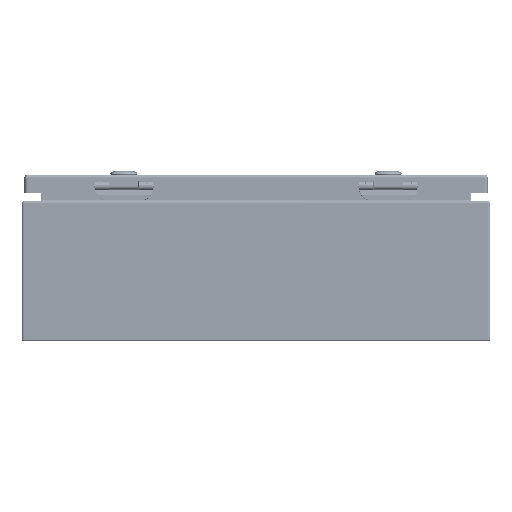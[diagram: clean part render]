
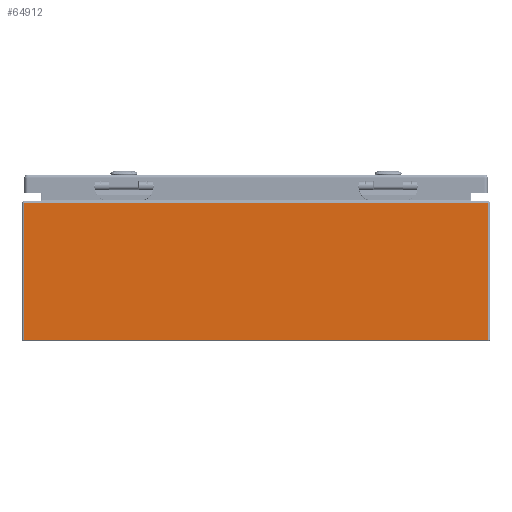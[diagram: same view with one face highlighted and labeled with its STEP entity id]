
A CAD part, left-side view. The second image highlights one B-rep face of the part: STEP entity #64912.
In plain terms, the highlighted planar face has unit normal (-1, 0, 0).
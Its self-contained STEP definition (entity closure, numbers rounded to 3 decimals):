
#6319=LINE('',#90825,#10344);
#6330=LINE('',#90866,#10355);
#6334=LINE('',#90881,#10359);
#6335=LINE('',#90882,#10360);
#10344=VECTOR('',#75524,0.394);
#10355=VECTOR('',#75573,0.394);
#10359=VECTOR('',#75591,0.394);
#10360=VECTOR('',#75592,0.394);
#15400=FACE_OUTER_BOUND('',#19386,.T.);
#19386=EDGE_LOOP('',(#43175,#43176,#43177,#43178));
#26011=VERTEX_POINT('',#90818);
#26012=VERTEX_POINT('',#90823);
#26023=VERTEX_POINT('',#90865);
#26027=VERTEX_POINT('',#90880);
#32644=EDGE_CURVE('',#26012,#26011,#6319,.T.);
#32664=EDGE_CURVE('',#26011,#26023,#6330,.T.);
#32672=EDGE_CURVE('',#26027,#26012,#6334,.T.);
#32673=EDGE_CURVE('',#26027,#26023,#6335,.T.);
#43175=ORIENTED_EDGE('',*,*,#32644,.F.);
#43176=ORIENTED_EDGE('',*,*,#32672,.F.);
#43177=ORIENTED_EDGE('',*,*,#32673,.T.);
#43178=ORIENTED_EDGE('',*,*,#32664,.F.);
#63520=PLANE('',#69793);
#64912=ADVANCED_FACE('',(#15400),#63520,.F.);
#69793=AXIS2_PLACEMENT_3D('',#90879,#75589,#75590);
#75524=DIRECTION('',(0.,-1.,0.));
#75573=DIRECTION('',(0.,0.,-1.));
#75589=DIRECTION('center_axis',(1.,0.,0.));
#75590=DIRECTION('ref_axis',(0.,0.,-1.));
#75591=DIRECTION('',(0.,0.,1.));
#75592=DIRECTION('',(0.,-1.,0.));
#90818=CARTESIAN_POINT('',(-12.,-9.916,5.916));
#90823=CARTESIAN_POINT('',(-12.,9.916,5.916));
#90825=CARTESIAN_POINT('',(-12.,-4.979,5.916));
#90865=CARTESIAN_POINT('',(-12.,-9.916,0.084));
#90866=CARTESIAN_POINT('',(-12.,-9.916,3.));
#90879=CARTESIAN_POINT('Origin',(-12.,0.,3.));
#90880=CARTESIAN_POINT('',(-12.,9.916,0.084));
#90881=CARTESIAN_POINT('',(-12.,9.916,3.));
#90882=CARTESIAN_POINT('',(-12.,5.,0.084));
